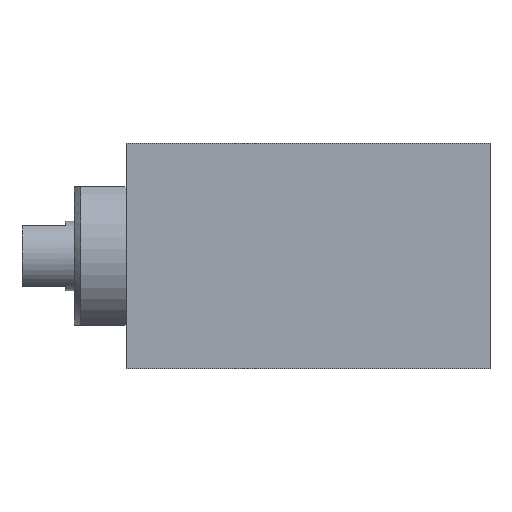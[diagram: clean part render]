
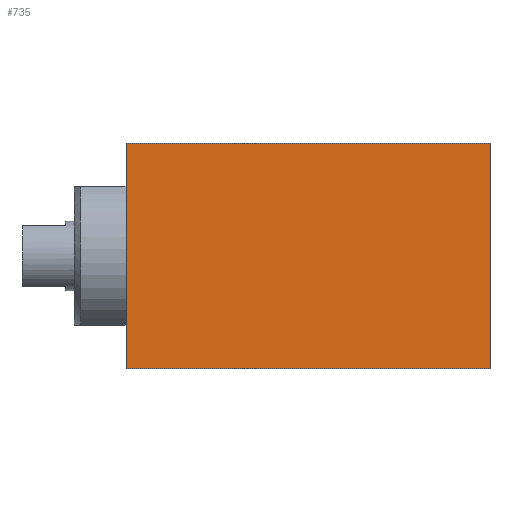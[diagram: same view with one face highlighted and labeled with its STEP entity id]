
A CAD part, front view. The second image highlights one B-rep face of the part: STEP entity #735.
In plain terms, the highlighted planar face has unit normal (0, -1, 0).
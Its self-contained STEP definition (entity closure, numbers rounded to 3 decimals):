
#16 = CARTESIAN_POINT ( 'NONE',  ( 0., -10., -6.5 ) ) ;
#77 = VERTEX_POINT ( 'NONE', #16 ) ;
#139 = EDGE_CURVE ( 'NONE', #1021, #77, #459, .T. ) ;
#366 = VECTOR ( 'NONE', #2897, 1000. ) ;
#369 = VECTOR ( 'NONE', #2136, 1000. ) ;
#459 = LINE ( 'NONE', #2251, #1662 ) ;
#473 = DIRECTION ( 'NONE',  ( -1., 0., 0. ) ) ;
#564 = EDGE_CURVE ( 'NONE', #1021, #1501, #2460, .T. ) ;
#665 = CARTESIAN_POINT ( 'NONE',  ( 21., -10., 6.5 ) ) ;
#735 = ADVANCED_FACE ( 'NONE', ( #1529 ), #2421, .T. ) ;
#746 = EDGE_CURVE ( 'NONE', #77, #1115, #771, .T. ) ;
#753 = CARTESIAN_POINT ( 'NONE',  ( 0., -10., 6.5 ) ) ;
#771 = LINE ( 'NONE', #1180, #1590 ) ;
#899 = CARTESIAN_POINT ( 'NONE',  ( 21., -10., -6.5 ) ) ;
#1021 = VERTEX_POINT ( 'NONE', #899 ) ;
#1064 = AXIS2_PLACEMENT_3D ( 'NONE', #1301, #2780, #2740 ) ;
#1106 = CARTESIAN_POINT ( 'NONE',  ( 21., -10., -6.5 ) ) ;
#1115 = VERTEX_POINT ( 'NONE', #753 ) ;
#1180 = CARTESIAN_POINT ( 'NONE',  ( 0., -10., -6.5 ) ) ;
#1244 = LINE ( 'NONE', #1490, #369 ) ;
#1301 = CARTESIAN_POINT ( 'NONE',  ( 21., -10., -6.5 ) ) ;
#1450 = ORIENTED_EDGE ( 'NONE', *, *, #746, .F. ) ;
#1490 = CARTESIAN_POINT ( 'NONE',  ( 21., -10., 6.5 ) ) ;
#1501 = VERTEX_POINT ( 'NONE', #665 ) ;
#1529 = FACE_OUTER_BOUND ( 'NONE', #2779, .T. ) ;
#1590 = VECTOR ( 'NONE', #2766, 1000. ) ;
#1599 = ORIENTED_EDGE ( 'NONE', *, *, #139, .F. ) ;
#1662 = VECTOR ( 'NONE', #473, 1000. ) ;
#2136 = DIRECTION ( 'NONE',  ( -1., 0., 0. ) ) ;
#2251 = CARTESIAN_POINT ( 'NONE',  ( 21., -10., -6.5 ) ) ;
#2348 = EDGE_CURVE ( 'NONE', #1501, #1115, #1244, .T. ) ;
#2421 = PLANE ( 'NONE',  #1064 ) ;
#2460 = LINE ( 'NONE', #1106, #366 ) ;
#2665 = ORIENTED_EDGE ( 'NONE', *, *, #2348, .T. ) ;
#2723 = ORIENTED_EDGE ( 'NONE', *, *, #564, .T. ) ;
#2740 = DIRECTION ( 'NONE',  ( 1., 0., 0. ) ) ;
#2766 = DIRECTION ( 'NONE',  ( 0., 0., 1. ) ) ;
#2779 = EDGE_LOOP ( 'NONE', ( #1450, #1599, #2723, #2665 ) ) ;
#2780 = DIRECTION ( 'NONE',  ( 0., -1., 0. ) ) ;
#2897 = DIRECTION ( 'NONE',  ( 0., 0., 1. ) ) ;
